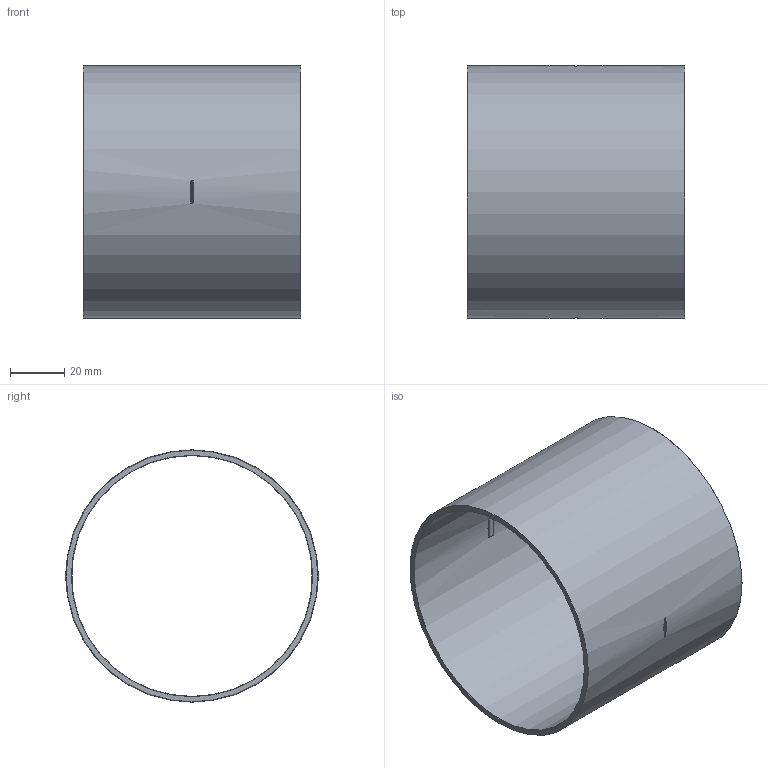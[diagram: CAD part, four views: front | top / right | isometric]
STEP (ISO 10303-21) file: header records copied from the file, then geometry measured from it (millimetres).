
FILE_DESCRIPTION((''),'2;1');
FILE_NAME('C:\brol\24\1527089.stp','2013-06-27T15:13:53',('vdvijverd'),(''),'Autodesk Inventor 2009','Autodesk Inventor 2009','');
FILE_SCHEMA(('AUTOMOTIVE_DESIGN { 1 0 10303 214 1 1 1 1 }'));
Length unit declared in the file: millimetre
Products named in the file (1): 1527089
Bounding box: 80.5 x 93.2 x 93.2 mm (x, y, z)
Volume: 48379.9 mm3; surface area: 47216 mm2
Topology: 1 solids, 1 shells, 36 faces, 96 edges, 64 vertices
Faces by surface type: bspline 14, cylinder 10, plane 8, cone 4
Full cylindrical faces by diameter (mm): 89 x1, 93.2 x1
Entity records: 1436 total; most frequent: CARTESIAN_POINT 625, ORIENTED_EDGE 176, DIRECTION 126, EDGE_CURVE 88, VERTEX_POINT 64, EDGE_LOOP 48, AXIS2_PLACEMENT_3D 47, FACE_OUTER_BOUND 36
